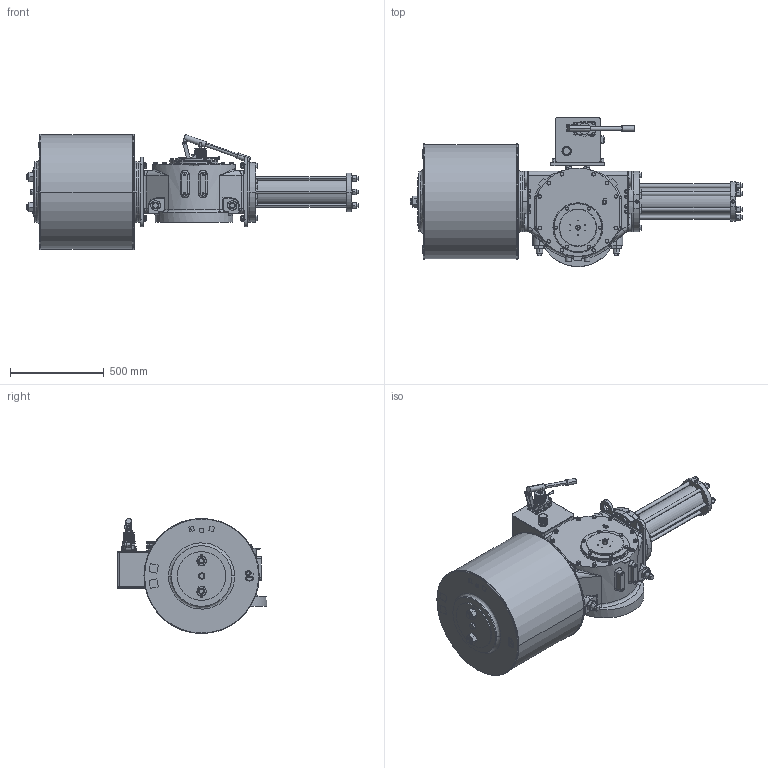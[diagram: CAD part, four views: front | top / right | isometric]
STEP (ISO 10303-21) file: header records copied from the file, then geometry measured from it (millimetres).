
FILE_DESCRIPTION (( 'STEP AP203' ), '1' );
FILE_NAME ('VTS5-600-MH.STEP', '2023-01-01T09:52:50', ( '' ), ( '' ), 'SwSTEP 2.0', 'SolidWorks 2020', '' );
FILE_SCHEMA (( 'CONFIG_CONTROL_DESIGN' ));
Length unit declared in the file: millimetre
Products named in the file (1): VTS5-600-MH
Bounding box: 1775 x 797.5 x 616 mm (x, y, z)
Volume: 231293975.9 mm3; surface area: 4876621.4 mm2
Topology: 79 solids, 81 shells, 3382 faces, 8320 edges, 5247 vertices
Faces by surface type: plane 1416, cylinder 1075, cone 786, bspline 105
Entity records: 114626 total; most frequent: CARTESIAN_POINT 35128, DIRECTION 16701, ORIENTED_EDGE 16484, EDGE_CURVE 8242, AXIS2_PLACEMENT_3D 6587, VERTEX_POINT 5247, EDGE_LOOP 3845, LINE 3527
